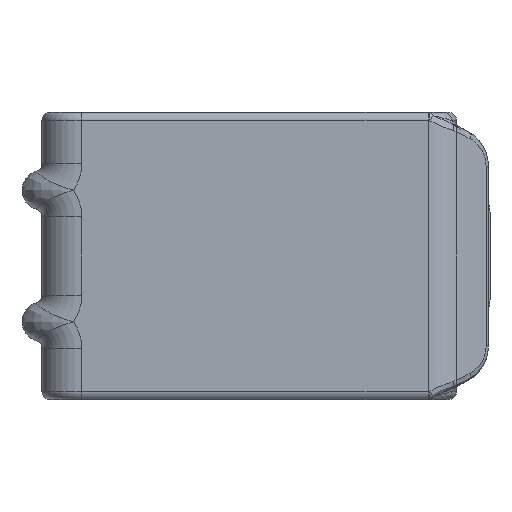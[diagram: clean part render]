
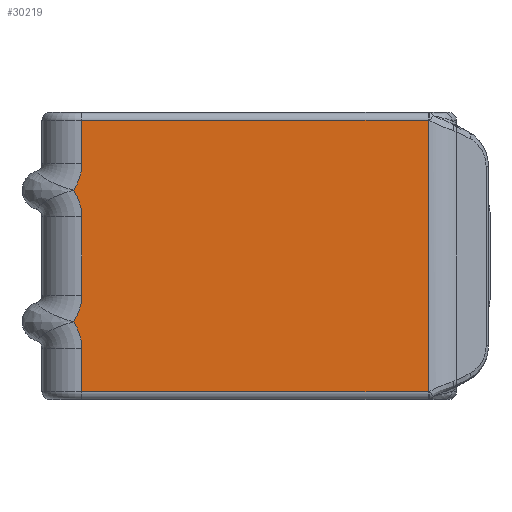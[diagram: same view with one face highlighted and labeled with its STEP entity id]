
A CAD part, left-side view. The second image highlights one B-rep face of the part: STEP entity #30219.
In plain terms, the highlighted planar face has unit normal (-1, 0, 0).
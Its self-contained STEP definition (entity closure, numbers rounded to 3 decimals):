
#29278 = VERTEX_POINT ( 'NONE', #36190 ) ;
#29682 = VERTEX_POINT ( 'NONE', #38951 ) ;
#29705 = EDGE_CURVE ( 'NONE', #29682, #29792, #39905, .T. ) ;
#29732 = EDGE_CURVE ( 'NONE', #29278, #29749, #38838, .T. ) ;
#29746 = VERTEX_POINT ( 'NONE', #41433 ) ;
#29749 = VERTEX_POINT ( 'NONE', #41432 ) ;
#29751 = EDGE_CURVE ( 'NONE', #29792, #29278, #41424, .T. ) ;
#29752 = ORIENTED_EDGE ( 'NONE', *, *, #29754, .T. ) ;
#29754 = EDGE_CURVE ( 'NONE', #29746, #30425, #41426, .T. ) ;
#29761 = ORIENTED_EDGE ( 'NONE', *, *, #29773, .T. ) ;
#29773 = EDGE_CURVE ( 'NONE', #29749, #29746, #40963, .T. ) ;
#29780 = EDGE_CURVE ( 'NONE', #29929, #29682, #41205, .T. ) ;
#29792 = VERTEX_POINT ( 'NONE', #41371 ) ;
#29813 = VERTEX_POINT ( 'NONE', #42700 ) ;
#29929 = VERTEX_POINT ( 'NONE', #44874 ) ;
#29931 = EDGE_CURVE ( 'NONE', #29995, #29929, #44867, .T. ) ;
#29956 = EDGE_CURVE ( 'NONE', #29813, #30001, #45620, .T. ) ;
#29993 = EDGE_CURVE ( 'NONE', #30001, #29995, #46092, .T. ) ;
#29995 = VERTEX_POINT ( 'NONE', #46084 ) ;
#30001 = VERTEX_POINT ( 'NONE', #46057 ) ;
#30219 = ADVANCED_FACE ( 'NONE', ( #48568 ), #48754, .F. ) ;
#30230 = ORIENTED_EDGE ( 'NONE', *, *, #30246, .T. ) ;
#30246 = EDGE_CURVE ( 'NONE', #30425, #29813, #48775, .T. ) ;
#30248 = ORIENTED_EDGE ( 'NONE', *, *, #29751, .T. ) ;
#30266 = EDGE_LOOP ( 'NONE', ( #29761, #29752, #30230, #30427, #30379, #30286, #30288, #30392, #30248, #30391 ) ) ;
#30286 = ORIENTED_EDGE ( 'NONE', *, *, #29931, .T. ) ;
#30288 = ORIENTED_EDGE ( 'NONE', *, *, #29780, .T. ) ;
#30379 = ORIENTED_EDGE ( 'NONE', *, *, #29993, .T. ) ;
#30391 = ORIENTED_EDGE ( 'NONE', *, *, #29732, .T. ) ;
#30392 = ORIENTED_EDGE ( 'NONE', *, *, #29705, .T. ) ;
#30425 = VERTEX_POINT ( 'NONE', #51253 ) ;
#30427 = ORIENTED_EDGE ( 'NONE', *, *, #29956, .T. ) ;
#36190 = CARTESIAN_POINT ( 'NONE',  ( -524.4, 21.85, -16.5 ) ) ;
#38833 = DIRECTION ( 'NONE',  ( 0., 1., 0. ) ) ;
#38834 = DIRECTION ( 'NONE',  ( 1., 0., 0. ) ) ;
#38835 = CARTESIAN_POINT ( 'NONE',  ( -524.4, 31.8, -23.208 ) ) ;
#38836 = AXIS2_PLACEMENT_3D ( 'NONE', #38835, #38834, #38833 ) ;
#38838 = CIRCLE ( 'NONE', #38836, 12. ) ;
#38951 = CARTESIAN_POINT ( 'NONE',  ( -524.4, 19.8, 9.792 ) ) ;
#39865 = DIRECTION ( 'NONE',  ( 0., 0., -1. ) ) ;
#39867 = VECTOR ( 'NONE', #39865, 1000. ) ;
#39868 = CARTESIAN_POINT ( 'NONE',  ( -524.4, 19.8, -9.792 ) ) ;
#39905 = LINE ( 'NONE', #39868, #39867 ) ;
#40955 = DIRECTION ( 'NONE',  ( 0., 0., -1. ) ) ;
#40956 = VECTOR ( 'NONE', #40955, 1000. ) ;
#40957 = CARTESIAN_POINT ( 'NONE',  ( -524.4, 19.8, -36. ) ) ;
#40963 = LINE ( 'NONE', #40957, #40956 ) ;
#41013 = DIRECTION ( 'NONE',  ( 0., -1., 0. ) ) ;
#41014 = VECTOR ( 'NONE', #41013, 1000. ) ;
#41016 = CARTESIAN_POINT ( 'NONE',  ( -524.4, -59.2, -34. ) ) ;
#41190 = DIRECTION ( 'NONE',  ( 1., 0., 0. ) ) ;
#41192 = CARTESIAN_POINT ( 'NONE',  ( -524.4, 31.8, 9.792 ) ) ;
#41193 = AXIS2_PLACEMENT_3D ( 'NONE', #41192, #41190, #41414 ) ;
#41205 = CIRCLE ( 'NONE', #41193, 12. ) ;
#41371 = CARTESIAN_POINT ( 'NONE',  ( -524.4, 19.8, -9.792 ) ) ;
#41414 = DIRECTION ( 'NONE',  ( 0., 1., 0. ) ) ;
#41417 = DIRECTION ( 'NONE',  ( 0., 1., 0. ) ) ;
#41419 = DIRECTION ( 'NONE',  ( 1., 0., 0. ) ) ;
#41421 = CARTESIAN_POINT ( 'NONE',  ( -524.4, 31.8, -9.792 ) ) ;
#41422 = AXIS2_PLACEMENT_3D ( 'NONE', #41421, #41419, #41417 ) ;
#41424 = CIRCLE ( 'NONE', #41422, 12. ) ;
#41426 = LINE ( 'NONE', #41016, #41014 ) ;
#41432 = CARTESIAN_POINT ( 'NONE',  ( -524.4, 19.8, -23.208 ) ) ;
#41433 = CARTESIAN_POINT ( 'NONE',  ( -524.4, 19.8, -34. ) ) ;
#42700 = CARTESIAN_POINT ( 'NONE',  ( -524.4, -67.058, 34. ) ) ;
#44864 = DIRECTION ( 'NONE',  ( 0., 1., 0. ) ) ;
#44865 = DIRECTION ( 'NONE',  ( 1., 0., 0. ) ) ;
#44866 = AXIS2_PLACEMENT_3D ( 'NONE', #44896, #44865, #44864 ) ;
#44867 = CIRCLE ( 'NONE', #44866, 12. ) ;
#44874 = CARTESIAN_POINT ( 'NONE',  ( -524.4, 21.85, 16.5 ) ) ;
#44896 = CARTESIAN_POINT ( 'NONE',  ( -524.4, 31.8, 23.208 ) ) ;
#45615 = DIRECTION ( 'NONE',  ( 0., 1., 0. ) ) ;
#45617 = VECTOR ( 'NONE', #45615, 1000. ) ;
#45618 = CARTESIAN_POINT ( 'NONE',  ( -524.4, -59.2, 34. ) ) ;
#45620 = LINE ( 'NONE', #45618, #45617 ) ;
#46057 = CARTESIAN_POINT ( 'NONE',  ( -524.4, 19.8, 34. ) ) ;
#46084 = CARTESIAN_POINT ( 'NONE',  ( -524.4, 19.8, 23.208 ) ) ;
#46088 = DIRECTION ( 'NONE',  ( 0., 0., -1. ) ) ;
#46089 = VECTOR ( 'NONE', #46088, 1000. ) ;
#46091 = CARTESIAN_POINT ( 'NONE',  ( -524.4, 19.8, 23.208 ) ) ;
#46092 = LINE ( 'NONE', #46091, #46089 ) ;
#48568 = FACE_OUTER_BOUND ( 'NONE', #30266, .T. ) ;
#48754 = PLANE ( 'NONE',  #48948 ) ;
#48769 = DIRECTION ( 'NONE',  ( 0., 0., 1. ) ) ;
#48771 = VECTOR ( 'NONE', #48769, 1000. ) ;
#48773 = CARTESIAN_POINT ( 'NONE',  ( -524.4, -67.058, 0. ) ) ;
#48775 = LINE ( 'NONE', #48773, #48771 ) ;
#48834 = CARTESIAN_POINT ( 'NONE',  ( -524.4, -59.2, 0. ) ) ;
#48924 = DIRECTION ( 'NONE',  ( 1., 0., 0. ) ) ;
#48948 = AXIS2_PLACEMENT_3D ( 'NONE', #48834, #48924, #49079 ) ;
#49079 = DIRECTION ( 'NONE',  ( 0., 1., 0. ) ) ;
#51253 = CARTESIAN_POINT ( 'NONE',  ( -524.4, -67.058, -34. ) ) ;
